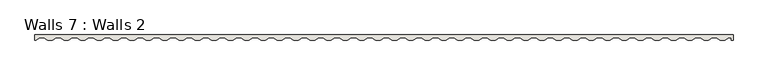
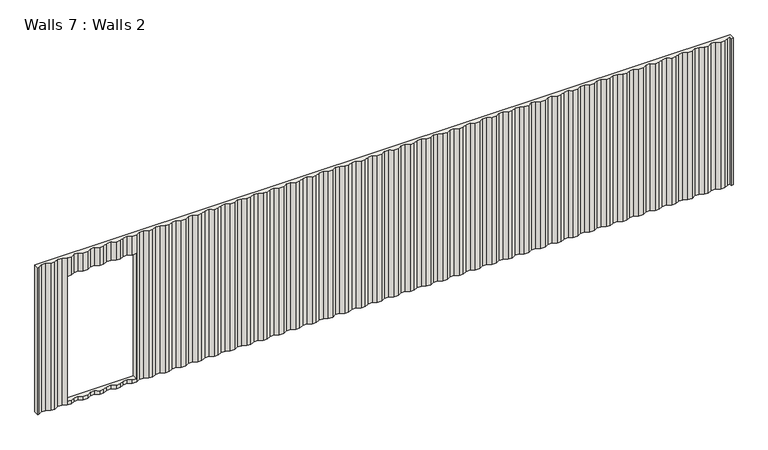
"""IFC4 building model written with IfcOpenShell, lengths in millimetres: wall geometry, Walls 7 : Walls 2."""

from ifc_helpers import new_model, si_unit, origin, place, context, project, spatial, faceted_brep, source, transform, mapped, element, save


def walls_7_walls_2_8f4ebd31(model_context):
    return source(origin(), model_context, "Body", "Brep", [
        faceted_brep([(7787.8891893, -2887.7772175, 3056.9999942), (-4042.1108023, -2887.7772175, 3056.9999942), (-4042.1108023, -2974.7772175, 3056.9999942), (-4029.8963726, -2974.7772175, 3056.9999942), (-3961.8963707, -2938.7772165, 3056.9999942), (-3891.8963644, -2938.7772165, 3056.9999942), (-3823.8963658, -2974.7772175, 3056.9999942), (-3751.8963651, -2974.7772175, 3056.9999942), (-3683.8963632, -2938.7772165, 3056.9999942), (-3613.8963569, -2938.7772165, 3056.9999942), (-3545.8963651, -2974.7772175, 3056.9999942), (-3473.8963651, -2974.7772175, 3056.9999942), (-3405.8963632, -2938.7772165, 3056.9999942), (-3335.8963569, -2938.7772165, 3056.9999942), (-3267.8963651, -2974.7772175, 3056.9999942), (-3195.8963651, -2974.7772175, 3056.9999942), (-3127.8963632, -2938.7772165, 3056.9999942), (-3057.8963569, -2938.7772165, 3056.9999942), (-2989.8963651, -2974.7772175, 3056.9999942), (-2917.8963651, -2974.7772175, 3056.9999942), (-2849.8963632, -2938.7772165, 3056.9999942), (-2779.8963569, -2938.7772165, 3056.9999942), (-2711.8963651, -2974.7772175, 3056.9999942), (-2639.8963651, -2974.7772175, 3056.9999942), (-2571.8963632, -2938.7772165, 3056.9999942), (-2501.8963569, -2938.7772165, 3056.9999942), (-2433.8963651, -2974.7772175, 3056.9999942), (-2361.8963651, -2974.7772175, 3056.9999942), (-2293.8963632, -2938.7772165, 3056.9999942), (-2223.8963569, -2938.7772165, 3056.9999942), (-2155.8963651, -2974.7772175, 3056.9999942), (-2083.8963651, -2974.7772175, 3056.9999942), (-2015.8963632, -2938.7772165, 3056.9999942), (-1945.8963569, -2938.7772165, 3056.9999942), (-1877.8963651, -2974.7772175, 3056.9999942), (-1805.8963651, -2974.7772175, 3056.9999942), (-1737.8963632, -2938.7772165, 3056.9999942), (-1667.8963569, -2938.7772165, 3056.9999942), (-1599.8963651, -2974.7772175, 3056.9999942), (-1527.8963651, -2974.7772175, 3056.9999942), (-1459.8963632, -2938.7772165, 3056.9999942), (-1389.8963569, -2938.7772165, 3056.9999942), (-1321.8963651, -2974.7772175, 3056.9999942), (-1249.8963651, -2974.7772175, 3056.9999942), (-1181.8963632, -2938.7772165, 3056.9999942), (-1111.8963569, -2938.7772165, 3056.9999942), (-1043.8963651, -2974.7772175, 3056.9999942), (-971.8963651, -2974.7772175, 3056.9999942), (-903.8963632, -2938.7772165, 3056.9999942), (-833.8963569, -2938.7772165, 3056.9999942), (-765.8963651, -2974.7772175, 3056.9999942), (-693.8963651, -2974.7772175, 3056.9999942), (-625.8963632, -2938.7772165, 3056.9999942), (-555.8963569, -2938.7772165, 3056.9999942), (-487.8963651, -2974.7772175, 3056.9999942), (-415.8963651, -2974.7772175, 3056.9999942), (-347.8963632, -2938.7772165, 3056.9999942), (-277.8963569, -2938.7772165, 3056.9999942), (-209.8963651, -2974.7772175, 3056.9999942), (-137.8963651, -2974.7772175, 3056.9999942), (-69.8963632, -2938.7772165, 3056.9999942), (0.1036431, -2938.7772165, 3056.9999942), (68.1036349, -2974.7772175, 3056.9999942), (140.1036349, -2974.7772175, 3056.9999942), (208.1036368, -2938.7772165, 3056.9999942), (278.1036431, -2938.7772165, 3056.9999942), (346.1036349, -2974.7772175, 3056.9999942), (418.1036349, -2974.7772175, 3056.9999942), (486.1036368, -2938.7772165, 3056.9999942), (556.1036431, -2938.7772165, 3056.9999942), (624.1036349, -2974.7772175, 3056.9999942), (696.1036349, -2974.7772175, 3056.9999942), (764.1036368, -2938.7772165, 3056.9999942), (834.1036431, -2938.7772165, 3056.9999942), (902.1036349, -2974.7772175, 3056.9999942), (974.1036349, -2974.7772175, 3056.9999942), (1042.1036368, -2938.7772165, 3056.9999942), (1112.1036431, -2938.7772165, 3056.9999942), (1180.1036349, -2974.7772175, 3056.9999942), (1252.1036349, -2974.7772175, 3056.9999942), (1320.1036368, -2938.7772165, 3056.9999942), (1390.1036431, -2938.7772165, 3056.9999942), (1458.1036349, -2974.7772175, 3056.9999942), (1530.1036349, -2974.7772175, 3056.9999942), (1598.1036368, -2938.7772165, 3056.9999942), (1668.1036431, -2938.7772165, 3056.9999942), (1736.1036349, -2974.7772175, 3056.9999942), (1808.1036349, -2974.7772175, 3056.9999942), (1876.1036368, -2938.7772165, 3056.9999942), (1946.1036431, -2938.7772165, 3056.9999942), (2014.1036349, -2974.7772175, 3056.9999942), (2086.1036349, -2974.7772175, 3056.9999942), (2154.1036368, -2938.7772165, 3056.9999942), (2224.1036431, -2938.7772165, 3056.9999942), (2292.1036349, -2974.7772175, 3056.9999942), (2364.1036349, -2974.7772175, 3056.9999942), (2432.1036368, -2938.7772165, 3056.9999942), (2502.1036431, -2938.7772165, 3056.9999942), (2570.1036349, -2974.7772175, 3056.9999942), (2642.1036349, -2974.7772175, 3056.9999942), (2710.1036368, -2938.7772165, 3056.9999942), (2780.1036431, -2938.7772165, 3056.9999942), (2848.1036349, -2974.7772175, 3056.9999942), (2920.1036349, -2974.7772175, 3056.9999942), (2988.1036368, -2938.7772165, 3056.9999942), (3058.1036431, -2938.7772165, 3056.9999942), (3126.1036349, -2974.7772175, 3056.9999942), (3198.1036349, -2974.7772175, 3056.9999942), (3266.1036368, -2938.7772165, 3056.9999942), (3336.1036431, -2938.7772165, 3056.9999942), (3404.1036349, -2974.7772175, 3056.9999942), (3476.1036349, -2974.7772175, 3056.9999942), (3544.1036368, -2938.7772165, 3056.9999942), (3614.1036431, -2938.7772165, 3056.9999942), (3682.1036349, -2974.7772175, 3056.9999942), (3754.1036349, -2974.7772175, 3056.9999942), (3822.1036368, -2938.7772165, 3056.9999942), (3892.1036431, -2938.7772165, 3056.9999942), (3960.1036349, -2974.7772175, 3056.9999942), (4032.1036349, -2974.7772175, 3056.9999942), (4100.1036368, -2938.7772165, 3056.9999942), (4170.1036431, -2938.7772165, 3056.9999942), (4238.1036349, -2974.7772175, 3056.9999942), (4310.1036349, -2974.7772175, 3056.9999942), (4378.1036368, -2938.7772165, 3056.9999942), (4448.1036431, -2938.7772165, 3056.9999942), (4516.1036349, -2974.7772175, 3056.9999942), (4588.1036349, -2974.7772175, 3056.9999942), (4656.1036368, -2938.7772165, 3056.9999942), (4726.1036431, -2938.7772165, 3056.9999942), (4794.1036349, -2974.7772175, 3056.9999942), (4866.1036349, -2974.7772175, 3056.9999942), (4934.1036368, -2938.7772165, 3056.9999942), (5004.1036431, -2938.7772165, 3056.9999942), (5072.1036349, -2974.7772175, 3056.9999942), (5144.1036349, -2974.7772175, 3056.9999942), (5212.1036368, -2938.7772165, 3056.9999942), (5282.1036431, -2938.7772165, 3056.9999942), (5350.1036349, -2974.7772175, 3056.9999942), (5422.1036349, -2974.7772175, 3056.9999942), (5490.1036368, -2938.7772165, 3056.9999942), (5560.1036431, -2938.7772165, 3056.9999942), (5628.1036349, -2974.7772175, 3056.9999942), (5700.1036349, -2974.7772175, 3056.9999942), (5768.1036368, -2938.7772165, 3056.9999942), (5838.1036431, -2938.7772165, 3056.9999942), (5906.1036349, -2974.7772175, 3056.9999942), (5978.1036349, -2974.7772175, 3056.9999942), (6046.1036368, -2938.7772165, 3056.9999942), (6116.1036431, -2938.7772165, 3056.9999942), (6184.1036349, -2974.7772175, 3056.9999942), (6256.1036349, -2974.7772175, 3056.9999942), (6324.1036368, -2938.7772165, 3056.9999942), (6394.1036431, -2938.7772165, 3056.9999942), (6462.1036349, -2974.7772175, 3056.9999942), (6534.1036349, -2974.7772175, 3056.9999942), (6602.1036368, -2938.7772165, 3056.9999942), (6672.1036431, -2938.7772165, 3056.9999942), (6740.1036349, -2974.7772175, 3056.9999942), (6812.1036349, -2974.7772175, 3056.9999942), (6880.1036368, -2938.7772165, 3056.9999942), (6950.1036431, -2938.7772165, 3056.9999942), (7018.1036349, -2974.7772175, 3056.9999942), (7090.1036349, -2974.7772175, 3056.9999942), (7158.1036368, -2938.7772165, 3056.9999942), (7228.1036431, -2938.7772165, 3056.9999942), (7296.1036349, -2974.7772175, 3056.9999942), (7368.1036349, -2974.7772175, 3056.9999942), (7436.1036368, -2938.7772165, 3056.9999942), (7506.1036431, -2938.7772165, 3056.9999942), (7574.1036349, -2974.7772175, 3056.9999942), (7646.1036349, -2974.7772175, 3056.9999942), (7714.1036368, -2938.7772165, 3056.9999942), (7753.0930791, -2938.7772165, 3056.9999942), (7753.0930791, -2974.7772175, 3056.9999942), (7787.8891893, -2974.7772175, 3056.9999942), (-4042.1108023, -2887.7772175, 411.0), (7787.8891893, -2887.7772175, 411.0), (7787.8891893, -2974.7772175, 411.0), (7753.0930791, -2974.7772175, 411.0), (7753.0930791, -2938.7772165, 411.0), (7714.1036368, -2938.7772165, 411.0), (7646.1036349, -2974.7772175, 411.0), (7574.1036349, -2974.7772175, 411.0), (7506.1036431, -2938.7772165, 411.0), (7436.1036368, -2938.7772165, 411.0), (7368.1036349, -2974.7772175, 411.0), (7296.1036349, -2974.7772175, 411.0), (7228.1036431, -2938.7772165, 411.0), (7158.1036368, -2938.7772165, 411.0), (7090.1036349, -2974.7772175, 411.0), (7018.1036349, -2974.7772175, 411.0), (6950.1036431, -2938.7772165, 411.0), (6880.1036368, -2938.7772165, 411.0), (6812.1036349, -2974.7772175, 411.0), (6740.1036349, -2974.7772175, 411.0), (6672.1036431, -2938.7772165, 411.0), (6602.1036368, -2938.7772165, 411.0), (6534.1036349, -2974.7772175, 411.0), (6462.1036349, -2974.7772175, 411.0), (6394.1036431, -2938.7772165, 411.0), (6324.1036368, -2938.7772165, 411.0), (6256.1036349, -2974.7772175, 411.0), (6184.1036349, -2974.7772175, 411.0), (6116.1036431, -2938.7772165, 411.0), (6046.1036368, -2938.7772165, 411.0), (5978.1036349, -2974.7772175, 411.0), (5906.1036349, -2974.7772175, 411.0), (5838.1036431, -2938.7772165, 411.0), (5768.1036368, -2938.7772165, 411.0), (5700.1036349, -2974.7772175, 411.0), (5628.1036349, -2974.7772175, 411.0), (5560.1036431, -2938.7772165, 411.0), (5490.1036368, -2938.7772165, 411.0), (5422.1036349, -2974.7772175, 411.0), (5350.1036349, -2974.7772175, 411.0), (5282.1036431, -2938.7772165, 411.0), (5212.1036368, -2938.7772165, 411.0), (5144.1036349, -2974.7772175, 411.0), (5072.1036349, -2974.7772175, 411.0), (5004.1036431, -2938.7772165, 411.0), (4934.1036368, -2938.7772165, 411.0), (4866.1036349, -2974.7772175, 411.0), (4794.1036349, -2974.7772175, 411.0), (4726.1036431, -2938.7772165, 411.0), (4656.1036368, -2938.7772165, 411.0), (4588.1036349, -2974.7772175, 411.0), (4516.1036349, -2974.7772175, 411.0), (4448.1036431, -2938.7772165, 411.0), (4378.1036368, -2938.7772165, 411.0), (4310.1036349, -2974.7772175, 411.0), (4238.1036349, -2974.7772175, 411.0), (4170.1036431, -2938.7772165, 411.0), (4100.1036368, -2938.7772165, 411.0), (4032.1036349, -2974.7772175, 411.0), (3960.1036349, -2974.7772175, 411.0), (3892.1036431, -2938.7772165, 411.0), (3822.1036368, -2938.7772165, 411.0), (3754.1036349, -2974.7772175, 411.0), (3682.1036349, -2974.7772175, 411.0), (3614.1036431, -2938.7772165, 411.0), (3544.1036368, -2938.7772165, 411.0), (3476.1036349, -2974.7772175, 411.0), (3404.1036349, -2974.7772175, 411.0), (3336.1036431, -2938.7772165, 411.0), (3266.1036368, -2938.7772165, 411.0), (3198.1036349, -2974.7772175, 411.0), (3126.1036349, -2974.7772175, 411.0), (3058.1036431, -2938.7772165, 411.0), (2988.1036368, -2938.7772165, 411.0), (2920.1036349, -2974.7772175, 411.0), (2848.1036349, -2974.7772175, 411.0), (2780.1036431, -2938.7772165, 411.0), (2710.1036368, -2938.7772165, 411.0), (2642.1036349, -2974.7772175, 411.0), (2570.1036349, -2974.7772175, 411.0), (2502.1036431, -2938.7772165, 411.0), (2432.1036368, -2938.7772165, 411.0), (2364.1036349, -2974.7772175, 411.0), (2292.1036349, -2974.7772175, 411.0), (2224.1036431, -2938.7772165, 411.0), (2154.1036368, -2938.7772165, 411.0), (2086.1036349, -2974.7772175, 411.0), (2014.1036349, -2974.7772175, 411.0), (1946.1036431, -2938.7772165, 411.0), (1876.1036368, -2938.7772165, 411.0), (1808.1036349, -2974.7772175, 411.0), (1736.1036349, -2974.7772175, 411.0), (1668.1036431, -2938.7772165, 411.0), (1598.1036368, -2938.7772165, 411.0), (1530.1036349, -2974.7772175, 411.0), (1458.1036349, -2974.7772175, 411.0), (1390.1036431, -2938.7772165, 411.0), (1320.1036368, -2938.7772165, 411.0), (1252.1036349, -2974.7772175, 411.0), (1180.1036349, -2974.7772175, 411.0), (1112.1036431, -2938.7772165, 411.0), (1042.1036368, -2938.7772165, 411.0), (974.1036349, -2974.7772175, 411.0), (902.1036349, -2974.7772175, 411.0), (834.1036431, -2938.7772165, 411.0), (764.1036368, -2938.7772165, 411.0), (696.1036349, -2974.7772175, 411.0), (624.1036349, -2974.7772175, 411.0), (556.1036431, -2938.7772165, 411.0), (486.1036368, -2938.7772165, 411.0), (418.1036349, -2974.7772175, 411.0), (346.1036349, -2974.7772175, 411.0), (278.1036431, -2938.7772165, 411.0), (208.1036368, -2938.7772165, 411.0), (140.1036349, -2974.7772175, 411.0), (68.1036349, -2974.7772175, 411.0), (0.1036431, -2938.7772165, 411.0), (-69.8963632, -2938.7772165, 411.0), (-137.8963651, -2974.7772175, 411.0), (-209.8963651, -2974.7772175, 411.0), (-277.8963569, -2938.7772165, 411.0), (-347.8963632, -2938.7772165, 411.0), (-415.8963651, -2974.7772175, 411.0), (-487.8963651, -2974.7772175, 411.0), (-555.8963569, -2938.7772165, 411.0), (-625.8963632, -2938.7772165, 411.0), (-693.8963651, -2974.7772175, 411.0), (-765.8963651, -2974.7772175, 411.0), (-833.8963569, -2938.7772165, 411.0), (-903.8963632, -2938.7772165, 411.0), (-971.8963651, -2974.7772175, 411.0), (-1043.8963651, -2974.7772175, 411.0), (-1111.8963569, -2938.7772165, 411.0), (-1181.8963632, -2938.7772165, 411.0), (-1249.8963651, -2974.7772175, 411.0), (-1321.8963651, -2974.7772175, 411.0), (-1389.8963569, -2938.7772165, 411.0), (-1459.8963632, -2938.7772165, 411.0), (-1527.8963651, -2974.7772175, 411.0), (-1599.8963651, -2974.7772175, 411.0), (-1667.8963569, -2938.7772165, 411.0), (-1737.8963632, -2938.7772165, 411.0), (-1805.8963651, -2974.7772175, 411.0), (-1877.8963651, -2974.7772175, 411.0), (-1945.8963569, -2938.7772165, 411.0), (-2015.8963632, -2938.7772165, 411.0), (-2083.8963651, -2974.7772175, 411.0), (-2155.8963651, -2974.7772175, 411.0), (-2223.8963569, -2938.7772165, 411.0), (-2293.8963632, -2938.7772165, 411.0), (-2361.8963651, -2974.7772175, 411.0), (-2433.8963651, -2974.7772175, 411.0), (-2501.8963569, -2938.7772165, 411.0), (-2571.8963632, -2938.7772165, 411.0), (-2639.8963651, -2974.7772175, 411.0), (-2711.8963651, -2974.7772175, 411.0), (-2779.8963569, -2938.7772165, 411.0), (-2849.8963632, -2938.7772165, 411.0), (-2917.8963651, -2974.7772175, 411.0), (-2989.8963651, -2974.7772175, 411.0), (-3057.8963569, -2938.7772165, 411.0), (-3127.8963632, -2938.7772165, 411.0), (-3195.8963651, -2974.7772175, 411.0), (-3267.8963651, -2974.7772175, 411.0), (-3335.8963569, -2938.7772165, 411.0), (-3405.8963632, -2938.7772165, 411.0), (-3473.8963651, -2974.7772175, 411.0), (-3545.8963651, -2974.7772175, 411.0), (-3613.8963569, -2938.7772165, 411.0), (-3683.8963632, -2938.7772165, 411.0), (-3751.8963651, -2974.7772175, 411.0), (-3823.8963658, -2974.7772175, 411.0), (-3891.8963644, -2938.7772165, 411.0), (-3961.8963707, -2938.7772165, 411.0), (-4029.8963726, -2974.7772175, 411.0), (-4042.1108023, -2974.7772175, 411.0), (-3543.3620423, -2887.7772175, 2728.0508653), (-3543.3620423, -2887.7772175, 474.0508653), (-2368.3620423, -2887.7772175, 474.0508653), (-2368.3620423, -2887.7772175, 2728.0508653), (-3473.8963651, -2974.7772175, 474.0508653), (-3543.3620423, -2974.7772175, 474.0508653), (-3543.3620423, -2974.7772175, 2728.0508653), (-3473.8963651, -2974.7772175, 2728.0508653), (-3405.8963632, -2938.7772165, 2728.0508653), (-3405.8963632, -2938.7772165, 474.0508653), (-3335.8963569, -2938.7772165, 2728.0508653), (-3335.8963569, -2938.7772165, 474.0508653), (-3267.8963651, -2974.7772175, 2728.0508653), (-3267.8963651, -2974.7772175, 474.0508653), (-3195.8963651, -2974.7772175, 2728.0508653), (-3195.8963651, -2974.7772175, 474.0508653), (-3127.8963632, -2938.7772165, 2728.0508653), (-3127.8963632, -2938.7772165, 474.0508653), (-3057.8963569, -2938.7772165, 2728.0508653), (-3057.8963569, -2938.7772165, 474.0508653), (-2989.8963651, -2974.7772175, 2728.0508653), (-2989.8963651, -2974.7772175, 474.0508653), (-2917.8963651, -2974.7772175, 2728.0508653), (-2917.8963651, -2974.7772175, 474.0508653), (-2849.8963632, -2938.7772165, 2728.0508653), (-2849.8963632, -2938.7772165, 474.0508653), (-2779.8963569, -2938.7772165, 2728.0508653), (-2779.8963569, -2938.7772165, 474.0508653), (-2711.8963651, -2974.7772175, 2728.0508653), (-2711.8963651, -2974.7772175, 474.0508653), (-2639.8963651, -2974.7772175, 2728.0508653), (-2639.8963651, -2974.7772175, 474.0508653), (-2571.8963632, -2938.7772165, 2728.0508653), (-2571.8963632, -2938.7772165, 474.0508653), (-2501.8963569, -2938.7772165, 2728.0508653), (-2501.8963569, -2938.7772165, 474.0508653), (-2433.8963651, -2974.7772175, 2728.0508653), (-2433.8963651, -2974.7772175, 474.0508653), (-2368.3620423, -2974.7772175, 2728.0508653), (-2368.3620423, -2974.7772175, 474.0508653)], [[[0, 1, 2, 3, 4, 5, 6, 7, 8, 9, 10, 11, 12, 13, 14, 15, 16, 17, 18, 19, 20, 21, 22, 23, 24, 25, 26, 27, 28, 29, 30, 31, 32, 33, 34, 35, 36, 37, 38, 39, 40, 41, 42, 43, 44, 45, 46, 47, 48, 49, 50, 51, 52, 53, 54, 55, 56, 57, 58, 59, 60, 61, 62, 63, 64, 65, 66, 67, 68, 69, 70, 71, 72, 73, 74, 75, 76, 77, 78, 79, 80, 81, 82, 83, 84, 85, 86, 87, 88, 89, 90, 91, 92, 93, 94, 95, 96, 97, 98, 99, 100, 101, 102, 103, 104, 105, 106, 107, 108, 109, 110, 111, 112, 113, 114, 115, 116, 117, 118, 119, 120, 121, 122, 123, 124, 125, 126, 127, 128, 129, 130, 131, 132, 133, 134, 135, 136, 137, 138, 139, 140, 141, 142, 143, 144, 145, 146, 147, 148, 149, 150, 151, 152, 153, 154, 155, 156, 157, 158, 159, 160, 161, 162, 163, 164, 165, 166, 167, 168, 169, 170, 171, 172, 173, 174, 175]], [[176, 177, 178, 179, 180, 181, 182, 183, 184, 185, 186, 187, 188, 189, 190, 191, 192, 193, 194, 195, 196, 197, 198, 199, 200, 201, 202, 203, 204, 205, 206, 207, 208, 209, 210, 211, 212, 213, 214, 215, 216, 217, 218, 219, 220, 221, 222, 223, 224, 225, 226, 227, 228, 229, 230, 231, 232, 233, 234, 235, 236, 237, 238, 239, 240, 241, 242, 243, 244, 245, 246, 247, 248, 249, 250, 251, 252, 253, 254, 255, 256, 257, 258, 259, 260, 261, 262, 263, 264, 265, 266, 267, 268, 269, 270, 271, 272, 273, 274, 275, 276, 277, 278, 279, 280, 281, 282, 283, 284, 285, 286, 287, 288, 289, 290, 291, 292, 293, 294, 295, 296, 297, 298, 299, 300, 301, 302, 303, 304, 305, 306, 307, 308, 309, 310, 311, 312, 313, 314, 315, 316, 317, 318, 319, 320, 321, 322, 323, 324, 325, 326, 327, 328, 329, 330, 331, 332, 333, 334, 335, 336, 337, 338, 339, 340, 341, 342, 343, 344, 345, 346, 347, 348, 349, 350, 351]], [[177, 176, 1, 0], [352, 353, 354, 355]], [[176, 351, 2, 1]], [[0, 175, 178, 177]], [[4, 3, 350, 349]], [[5, 4, 349, 348]], [[6, 5, 348, 347]], [[7, 6, 347, 346]], [[8, 7, 346, 345]], [[9, 8, 345, 344]], [[10, 9, 344, 343]], [[11, 10, 343, 342, 356, 357, 358, 359]], [[12, 11, 359, 360]], [[342, 341, 361, 356]], [[13, 12, 360, 362]], [[341, 340, 363, 361]], [[14, 13, 362, 364]], [[340, 339, 365, 363]], [[15, 14, 364, 366]], [[339, 338, 367, 365]], [[16, 15, 366, 368]], [[338, 337, 369, 367]], [[17, 16, 368, 370]], [[337, 336, 371, 369]], [[18, 17, 370, 372]], [[336, 335, 373, 371]], [[19, 18, 372, 374]], [[335, 334, 375, 373]], [[20, 19, 374, 376]], [[334, 333, 377, 375]], [[21, 20, 376, 378]], [[333, 332, 379, 377]], [[22, 21, 378, 380]], [[332, 331, 381, 379]], [[23, 22, 380, 382]], [[331, 330, 383, 381]], [[24, 23, 382, 384]], [[330, 329, 385, 383]], [[25, 24, 384, 386]], [[329, 328, 387, 385]], [[26, 25, 386, 388]], [[328, 327, 389, 387]], [[27, 26, 388, 390, 391, 389, 327, 326]], [[28, 27, 326, 325]], [[29, 28, 325, 324]], [[30, 29, 324, 323]], [[31, 30, 323, 322]], [[32, 31, 322, 321]], [[33, 32, 321, 320]], [[34, 33, 320, 319]], [[35, 34, 319, 318]], [[36, 35, 318, 317]], [[37, 36, 317, 316]], [[38, 37, 316, 315]], [[39, 38, 315, 314]], [[40, 39, 314, 313]], [[41, 40, 313, 312]], [[42, 41, 312, 311]], [[43, 42, 311, 310]], [[44, 43, 310, 309]], [[45, 44, 309, 308]], [[46, 45, 308, 307]], [[47, 46, 307, 306]], [[48, 47, 306, 305]], [[49, 48, 305, 304]], [[50, 49, 304, 303]], [[51, 50, 303, 302]], [[52, 51, 302, 301]], [[53, 52, 301, 300]], [[54, 53, 300, 299]], [[55, 54, 299, 298]], [[56, 55, 298, 297]], [[57, 56, 297, 296]], [[58, 57, 296, 295]], [[59, 58, 295, 294]], [[60, 59, 294, 293]], [[61, 60, 293, 292]], [[62, 61, 292, 291]], [[63, 62, 291, 290]], [[64, 63, 290, 289]], [[65, 64, 289, 288]], [[66, 65, 288, 287]], [[67, 66, 287, 286]], [[68, 67, 286, 285]], [[69, 68, 285, 284]], [[70, 69, 284, 283]], [[71, 70, 283, 282]], [[72, 71, 282, 281]], [[73, 72, 281, 280]], [[74, 73, 280, 279]], [[75, 74, 279, 278]], [[76, 75, 278, 277]], [[77, 76, 277, 276]], [[78, 77, 276, 275]], [[79, 78, 275, 274]], [[80, 79, 274, 273]], [[81, 80, 273, 272]], [[82, 81, 272, 271]], [[83, 82, 271, 270]], [[84, 83, 270, 269]], [[357, 353, 352, 358]], [[358, 352, 355, 390, 388, 386, 384, 382, 380, 378, 376, 374, 372, 370, 368, 366, 364, 362, 360, 359]], [[390, 355, 354, 391]], [[353, 357, 356, 361, 363, 365, 367, 369, 371, 373, 375, 377, 379, 381, 383, 385, 387, 389, 391, 354]], [[174, 173, 180, 179]], [[175, 174, 179, 178]], [[3, 2, 351, 350]], [[85, 84, 269, 268]], [[86, 85, 268, 267]], [[87, 86, 267, 266]], [[88, 87, 266, 265]], [[89, 88, 265, 264]], [[90, 89, 264, 263]], [[91, 90, 263, 262]], [[92, 91, 262, 261]], [[93, 92, 261, 260]], [[94, 93, 260, 259]], [[95, 94, 259, 258]], [[96, 95, 258, 257]], [[97, 96, 257, 256]], [[98, 97, 256, 255]], [[99, 98, 255, 254]], [[100, 99, 254, 253]], [[101, 100, 253, 252]], [[102, 101, 252, 251]], [[103, 102, 251, 250]], [[104, 103, 250, 249]], [[105, 104, 249, 248]], [[106, 105, 248, 247]], [[107, 106, 247, 246]], [[108, 107, 246, 245]], [[109, 108, 245, 244]], [[110, 109, 244, 243]], [[111, 110, 243, 242]], [[112, 111, 242, 241]], [[113, 112, 241, 240]], [[114, 113, 240, 239]], [[115, 114, 239, 238]], [[116, 115, 238, 237]], [[117, 116, 237, 236]], [[118, 117, 236, 235]], [[119, 118, 235, 234]], [[120, 119, 234, 233]], [[121, 120, 233, 232]], [[122, 121, 232, 231]], [[123, 122, 231, 230]], [[124, 123, 230, 229]], [[125, 124, 229, 228]], [[126, 125, 228, 227]], [[127, 126, 227, 226]], [[128, 127, 226, 225]], [[129, 128, 225, 224]], [[130, 129, 224, 223]], [[131, 130, 223, 222]], [[132, 131, 222, 221]], [[133, 132, 221, 220]], [[134, 133, 220, 219]], [[135, 134, 219, 218]], [[136, 135, 218, 217]], [[137, 136, 217, 216]], [[138, 137, 216, 215]], [[139, 138, 215, 214]], [[140, 139, 214, 213]], [[141, 140, 213, 212]], [[142, 141, 212, 211]], [[143, 142, 211, 210]], [[144, 143, 210, 209]], [[145, 144, 209, 208]], [[146, 145, 208, 207]], [[147, 146, 207, 206]], [[148, 147, 206, 205]], [[149, 148, 205, 204]], [[150, 149, 204, 203]], [[151, 150, 203, 202]], [[152, 151, 202, 201]], [[153, 152, 201, 200]], [[154, 153, 200, 199]], [[155, 154, 199, 198]], [[156, 155, 198, 197]], [[157, 156, 197, 196]], [[158, 157, 196, 195]], [[159, 158, 195, 194]], [[160, 159, 194, 193]], [[161, 160, 193, 192]], [[162, 161, 192, 191]], [[163, 162, 191, 190]], [[164, 163, 190, 189]], [[165, 164, 189, 188]], [[166, 165, 188, 187]], [[167, 166, 187, 186]], [[168, 167, 186, 185]], [[169, 168, 185, 184]], [[170, 169, 184, 183]], [[171, 170, 183, 182]], [[172, 171, 182, 181]], [[173, 172, 181, 180]]]),
    ])


if __name__ == "__main__":
    model = new_model("IFC4")
    model_context = context("Model", 3, world=origin())
    ifc_project = project(units=[si_unit("LENGTHUNIT", "METRE", prefix="MILLI")], contexts=[model_context])
    site = spatial("IfcSite", under=ifc_project)
    building = spatial("IfcBuilding", under=site)
    placement = place(None, origin())
    walls_7_walls_2_shape = walls_7_walls_2_8f4ebd31(model_context)
    element("IfcWall", 1, ObjectType="Walls 7 : Walls 2", at=placement, inside=building, context=model_context, shape_type="MappedRepresentation", body=[
        mapped(walls_7_walls_2_shape, transform((0.0, 0.0, 0.0), x_axis=(1.0, 0.0, 0.0), y_axis=(0.0, 1.0, 0.0), z_axis=(0.0, 0.0, 1.0))),
    ])
    save(model, "model.ifc")
